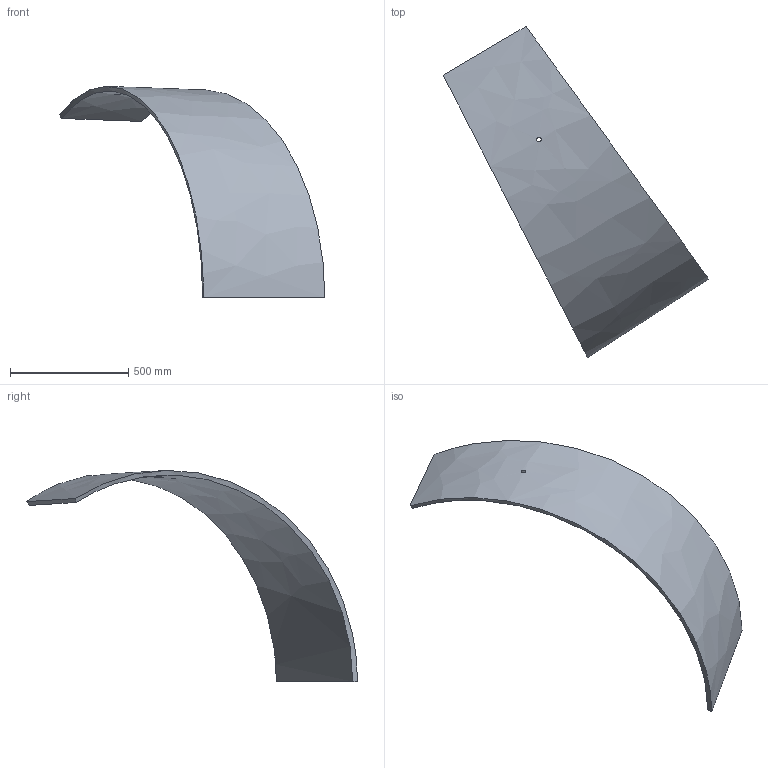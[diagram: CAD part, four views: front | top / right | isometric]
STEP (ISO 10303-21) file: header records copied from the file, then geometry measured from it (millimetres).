
FILE_DESCRIPTION (( 'STEP AP214' ), '1' );
FILE_NAME ('P10.2.STEP', '2025-01-09T19:43:27', ( '' ), ( '' ), 'SwSTEP 2.0', 'SolidWorks 2024', '' );
FILE_SCHEMA (( 'AUTOMOTIVE_DESIGN' ));
Length unit declared in the file: inch
Products named in the file (1): P10.2
Bounding box: 1124.95 x 1401.83 x 894.47 mm (x, y, z)
Volume: 18509090.8 mm3; surface area: 2016572.8 mm2
Topology: 1 solids, 1 shells, 8 faces, 18 edges, 12 vertices
Faces by surface type: bspline 7, cylinder 1
Full cylindrical faces by diameter (mm): 19.447 x1
Entity records: 2456 total; most frequent: CARTESIAN_POINT 2308, ORIENTED_EDGE 30, B_SPLINE_CURVE_WITH_KNOTS 15, EDGE_CURVE 15, EDGE_LOOP 12, VERTEX_POINT 11, FACE_OUTER_BOUND 10, ADVANCED_FACE 8
